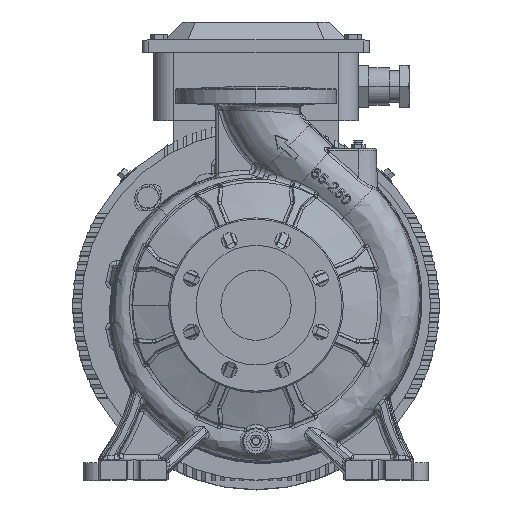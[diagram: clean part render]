
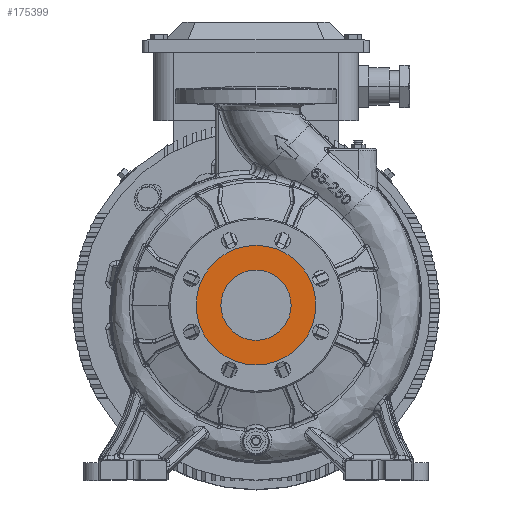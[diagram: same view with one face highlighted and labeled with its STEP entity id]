
A CAD part, top view. The second image highlights one B-rep face of the part: STEP entity #175399.
In plain terms, the highlighted planar face has unit normal (0, 0, 1).
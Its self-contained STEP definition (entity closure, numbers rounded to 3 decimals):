
#9103 = DIRECTION ( 'NONE',  ( -1., 0., 0. ) ) ;
#11793 = ORIENTED_EDGE ( 'NONE', *, *, #81648, .T. ) ;
#14982 = CARTESIAN_POINT ( 'NONE',  ( 0., 0., 254. ) ) ;
#20788 = CARTESIAN_POINT ( 'NONE',  ( 0., 0., 254. ) ) ;
#22203 = VERTEX_POINT ( 'NONE', #168165 ) ;
#30916 = CIRCLE ( 'NONE', #63926, 68.5 ) ;
#32110 = DIRECTION ( 'NONE',  ( 0., 0., -1. ) ) ;
#40663 = DIRECTION ( 'NONE',  ( 0., 0., 1. ) ) ;
#42262 = DIRECTION ( 'NONE',  ( 0., 0., 1. ) ) ;
#54567 = CIRCLE ( 'NONE', #63557, 40.258 ) ;
#59169 = EDGE_LOOP ( 'NONE', ( #92471, #64641 ) ) ;
#61021 = VERTEX_POINT ( 'NONE', #126928 ) ;
#63557 = AXIS2_PLACEMENT_3D ( 'NONE', #20788, #32110, #133551 ) ;
#63926 = AXIS2_PLACEMENT_3D ( 'NONE', #14982, #42262, #112705 ) ;
#64641 = ORIENTED_EDGE ( 'NONE', *, *, #130833, .T. ) ;
#72202 = AXIS2_PLACEMENT_3D ( 'NONE', #99811, #40663, #156206 ) ;
#81648 = EDGE_CURVE ( 'NONE', #22203, #151817, #30916, .T. ) ;
#82672 = CARTESIAN_POINT ( 'NONE',  ( 0., 0., 254. ) ) ;
#84521 = PLANE ( 'NONE',  #184948 ) ;
#92471 = ORIENTED_EDGE ( 'NONE', *, *, #129217, .T. ) ;
#93231 = CIRCLE ( 'NONE', #72202, 68.5 ) ;
#95547 = DIRECTION ( 'NONE',  ( 0., 0., -1. ) ) ;
#97675 = FACE_OUTER_BOUND ( 'NONE', #173397, .T. ) ;
#99811 = CARTESIAN_POINT ( 'NONE',  ( 0., 0., 254. ) ) ;
#112705 = DIRECTION ( 'NONE',  ( -1., 0., 0. ) ) ;
#114566 = DIRECTION ( 'NONE',  ( 0., -1., 0. ) ) ;
#119947 = VERTEX_POINT ( 'NONE', #178451 ) ;
#121164 = CIRCLE ( 'NONE', #139290, 40.258 ) ;
#126807 = DIRECTION ( 'NONE',  ( 0., 0., 1. ) ) ;
#126928 = CARTESIAN_POINT ( 'NONE',  ( 40.258, 0., 254. ) ) ;
#129217 = EDGE_CURVE ( 'NONE', #119947, #61021, #54567, .T. ) ;
#130833 = EDGE_CURVE ( 'NONE', #61021, #119947, #121164, .T. ) ;
#131058 = CARTESIAN_POINT ( 'NONE',  ( -68.5, 0., 254. ) ) ;
#133551 = DIRECTION ( 'NONE',  ( -1., 0., 0. ) ) ;
#136193 = EDGE_CURVE ( 'NONE', #151817, #22203, #93231, .T. ) ;
#137854 = CARTESIAN_POINT ( 'NONE',  ( 0., 0., 254. ) ) ;
#139290 = AXIS2_PLACEMENT_3D ( 'NONE', #137854, #95547, #9103 ) ;
#151817 = VERTEX_POINT ( 'NONE', #131058 ) ;
#156206 = DIRECTION ( 'NONE',  ( -1., 0., 0. ) ) ;
#162734 = ORIENTED_EDGE ( 'NONE', *, *, #136193, .T. ) ;
#168165 = CARTESIAN_POINT ( 'NONE',  ( 68.5, 0., 254. ) ) ;
#170043 = FACE_BOUND ( 'NONE', #59169, .T. ) ;
#173397 = EDGE_LOOP ( 'NONE', ( #162734, #11793 ) ) ;
#175399 = ADVANCED_FACE ( 'NONE', ( #97675, #170043 ), #84521, .T. ) ;
#178451 = CARTESIAN_POINT ( 'NONE',  ( -40.258, 0., 254. ) ) ;
#184948 = AXIS2_PLACEMENT_3D ( 'NONE', #82672, #126807, #114566 ) ;
